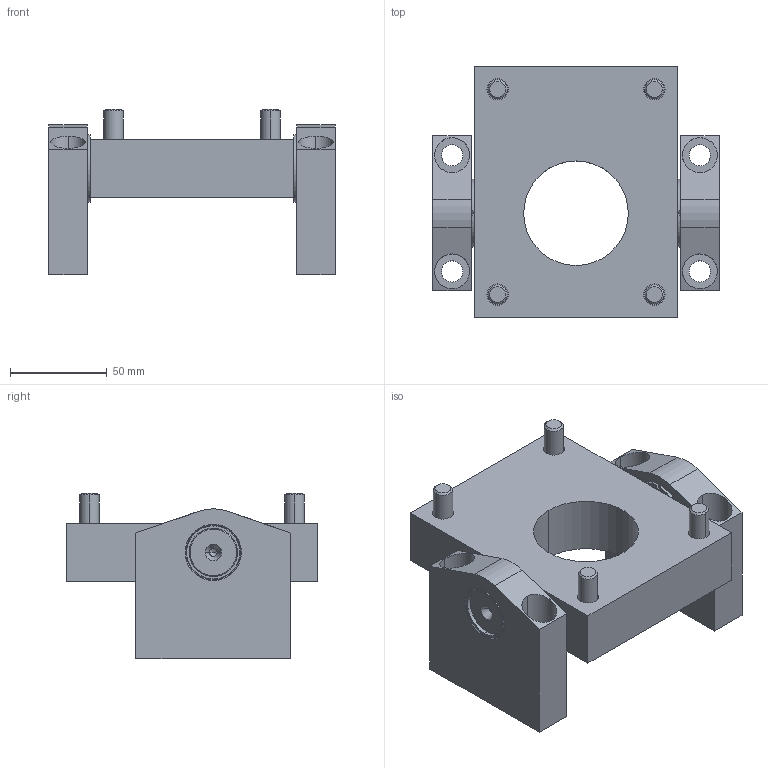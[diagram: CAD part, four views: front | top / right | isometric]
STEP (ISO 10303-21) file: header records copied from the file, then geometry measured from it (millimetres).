
FILE_DESCRIPTION (( 'STEP AP203' ), '1' );
FILE_NAME ('MJ3-KP(Z2).STEP', '2024-01-16T08:57:22', ( '' ), ( '' ), 'SwSTEP 2.0', 'SolidWorks 2022', '' );
FILE_SCHEMA (( 'CONFIG_CONTROL_DESIGN' ));
Length unit declared in the file: millimetre
Products named in the file (1): MJ3-KP(Z2)
Bounding box: 148 x 130 x 85.6 mm (x, y, z)
Volume: 529646.4 mm3; surface area: 113130.1 mm2
Topology: 9 solids, 9 shells, 220 faces, 530 edges, 336 vertices
Faces by surface type: plane 80, cylinder 76, cone 40, torus 24
Entity records: 6561 total; most frequent: CARTESIAN_POINT 1289, DIRECTION 1152, ORIENTED_EDGE 1036, EDGE_CURVE 518, AXIS2_PLACEMENT_3D 461, VERTEX_POINT 336, EDGE_LOOP 262, CIRCLE 240
